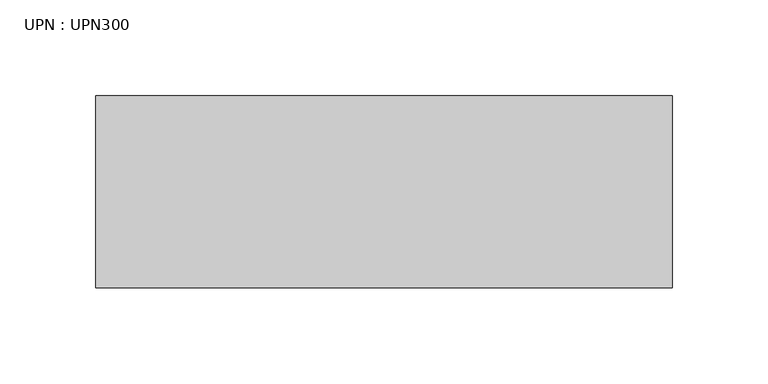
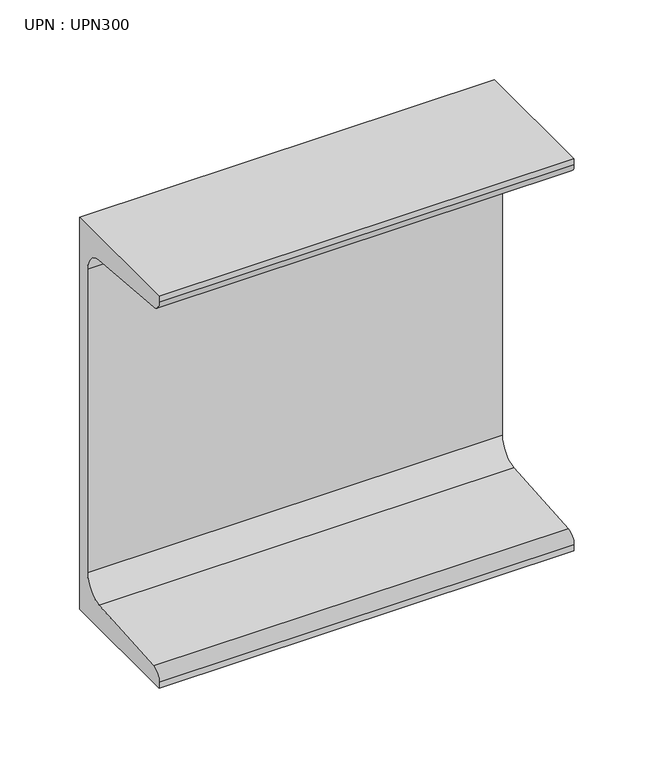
"""IFC4 building model written with IfcOpenShell, lengths in millimetres: beam geometry, UPN : UPN300."""

from ifc_helpers import new_model, si_unit, point, frame, frame_2d, origin, place, context, project, spatial, polyline, circle_curve, trimmed, segment, composite_curve, outline, extrude, source, transform, mapped, element, save


def upn_upn300_8ccf3d49(model_context):
    return source(origin(), model_context, "Body", "SweptSolid", [
        extrude(outline(composite_curve([segment(polyline([(27.0, 150.0), (27.0, -150.0), (-73.0, -150.0), (-73.0, -145.3826224)]), True, "CONTINUOUS"), segment(trimmed(circle_curve(frame_2d((-65.0, -145.3826224)), 8.0), [point((-73.0, -145.3826224))], [point((-65.637416, -137.4080566))], False, "CARTESIAN"), True, "CONTINUOUS"), segment(polyline([(-65.637416, -137.4080566), (2.274832, -131.9797543)]), True, "CONTINUOUS"), segment(trimmed(circle_curve(frame_2d((1.0, -116.0306225)), 16.0), [point((2.274832, -131.9797543))], [point((17.0, -116.0306225))], True, "CARTESIAN"), True, "CONTINUOUS"), segment(polyline([(17.0, -116.0306225), (17.0, 116.0306225)]), True, "CONTINUOUS"), segment(trimmed(circle_curve(frame_2d((1.0, 116.0306225)), 16.0), [point((17.0, 116.0306225))], [point((2.274832, 131.9797543))], True, "CARTESIAN"), True, "CONTINUOUS"), segment(polyline([(2.274832, 131.9797543), (-65.637416, 137.4080566)]), True, "CONTINUOUS"), segment(trimmed(circle_curve(frame_2d((-65.0, 145.3826224)), 8.0), [point((-65.637416, 137.4080566))], [point((-73.0, 145.3826224))], False, "CARTESIAN"), True, "CONTINUOUS"), segment(polyline([(-73.0, 145.3826224), (-73.0, 150.0), (27.0, 150.0)]), True, "CONTINUOUS")], self_intersect=False)), frame((-143.85, 0.0, 0.0), z_axis=(1.0, 0.0, 0.0), x_axis=(0.0, 1.0, 0.0)), (0.0, 0.0, 1.0), 300.5),
    ])


if __name__ == "__main__":
    model = new_model("IFC4")
    model_context = context("Model", 3, world=origin())
    ifc_project = project(units=[si_unit("LENGTHUNIT", "METRE", prefix="MILLI")], contexts=[model_context])
    site = spatial("IfcSite", under=ifc_project)
    building = spatial("IfcBuilding", under=site)
    placement = place(None, origin())
    upn_upn300_shape = upn_upn300_8ccf3d49(model_context)
    element("IfcBeam", 1, ObjectType="UPN : UPN300", at=placement, inside=building, context=model_context, shape_type="MappedRepresentation", body=[
        mapped(upn_upn300_shape, transform((0.0, 0.0, 0.0), x_axis=(1.0, 0.0, 0.0), y_axis=(0.0, 1.0, 0.0), z_axis=(0.0, 0.0, 1.0))),
    ])
    save(model, "model.ifc")
